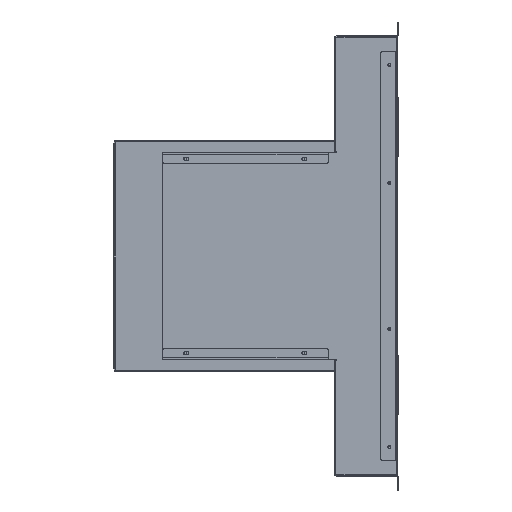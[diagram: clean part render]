
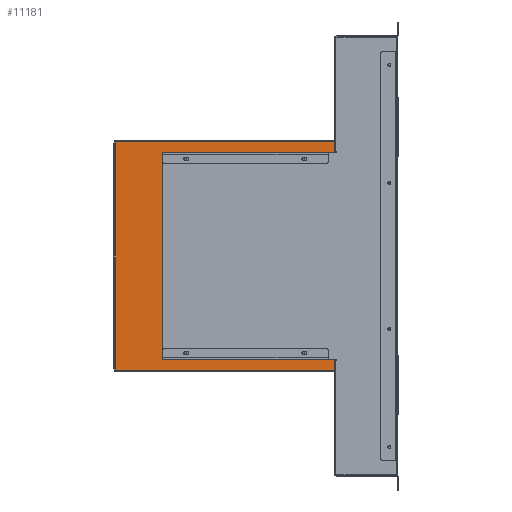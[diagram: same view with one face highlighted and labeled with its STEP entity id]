
A CAD part, left-side view. The second image highlights one B-rep face of the part: STEP entity #11181.
In plain terms, the highlighted planar face has unit normal (-1, 0, 0) as drawn and (0, 0, -1) by its records, which use the part's own axes.
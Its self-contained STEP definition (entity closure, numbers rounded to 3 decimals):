
#4718 = EDGE_CURVE ( 'NONE', #75455, #121152, #142606, .T. ) ;
#5881 = ORIENTED_EDGE ( 'NONE', *, *, #84899, .T. ) ;
#11181 = ADVANCED_FACE ( 'NONE', ( #104732 ), #140871, .F. ) ;
#13406 = DIRECTION ( 'NONE',  ( 0., -1., 0. ) ) ;
#18379 = DIRECTION ( 'NONE',  ( 0., 0., 1. ) ) ;
#20673 = EDGE_CURVE ( 'NONE', #56484, #75455, #56126, .T. ) ;
#28733 = DIRECTION ( 'NONE',  ( -1., 0., 0. ) ) ;
#29471 = DIRECTION ( 'NONE',  ( -1., 0., 0. ) ) ;
#42820 = CARTESIAN_POINT ( 'NONE',  ( 144.9, 138.4, 134.4 ) ) ;
#49088 = CARTESIAN_POINT ( 'NONE',  ( -144.9, 140., 134.4 ) ) ;
#53262 = CARTESIAN_POINT ( 'NONE',  ( -144.9, -140., 134.4 ) ) ;
#54830 = VERTEX_POINT ( 'NONE', #117336 ) ;
#56126 = LINE ( 'NONE', #42820, #75745 ) ;
#56203 = EDGE_LOOP ( 'NONE', ( #60576, #5881, #88374, #61903 ) ) ;
#56484 = VERTEX_POINT ( 'NONE', #95224 ) ;
#60576 = ORIENTED_EDGE ( 'NONE', *, *, #20673, .F. ) ;
#61903 = ORIENTED_EDGE ( 'NONE', *, *, #4718, .F. ) ;
#64870 = CARTESIAN_POINT ( 'NONE',  ( -146.5, -140., 134.4 ) ) ;
#72648 = VECTOR ( 'NONE', #141077, 1000. ) ;
#75455 = VERTEX_POINT ( 'NONE', #134179 ) ;
#75745 = VECTOR ( 'NONE', #29471, 1000. ) ;
#78209 = VECTOR ( 'NONE', #13406, 1000. ) ;
#78864 = DIRECTION ( 'NONE',  ( 1., 0., 0. ) ) ;
#84899 = EDGE_CURVE ( 'NONE', #56484, #54830, #108463, .T. ) ;
#88374 = ORIENTED_EDGE ( 'NONE', *, *, #133888, .T. ) ;
#95224 = CARTESIAN_POINT ( 'NONE',  ( 144.9, 138.4, 134.4 ) ) ;
#104732 = FACE_OUTER_BOUND ( 'NONE', #56203, .T. ) ;
#108463 = LINE ( 'NONE', #132024, #78209 ) ;
#117336 = CARTESIAN_POINT ( 'NONE',  ( 144.9, -140., 134.4 ) ) ;
#121152 = VERTEX_POINT ( 'NONE', #53262 ) ;
#123008 = LINE ( 'NONE', #64870, #141640 ) ;
#132024 = CARTESIAN_POINT ( 'NONE',  ( 144.9, 140., 134.4 ) ) ;
#133888 = EDGE_CURVE ( 'NONE', #54830, #121152, #123008, .T. ) ;
#134179 = CARTESIAN_POINT ( 'NONE',  ( -144.9, 138.4, 134.4 ) ) ;
#140871 = PLANE ( 'NONE',  #154373 ) ;
#141077 = DIRECTION ( 'NONE',  ( 0., -1., 0. ) ) ;
#141640 = VECTOR ( 'NONE', #28733, 1000. ) ;
#142606 = LINE ( 'NONE', #49088, #72648 ) ;
#149541 = CARTESIAN_POINT ( 'NONE',  ( -146.5, 140., 134.4 ) ) ;
#154373 = AXIS2_PLACEMENT_3D ( 'NONE', #149541, #18379, #78864 ) ;
